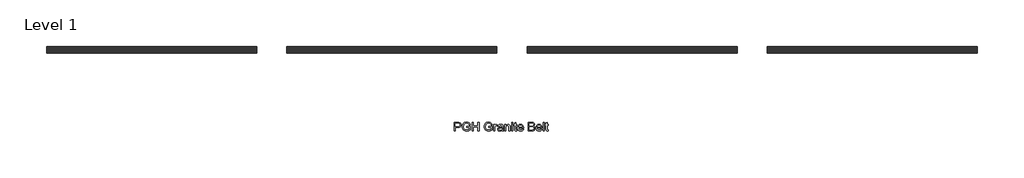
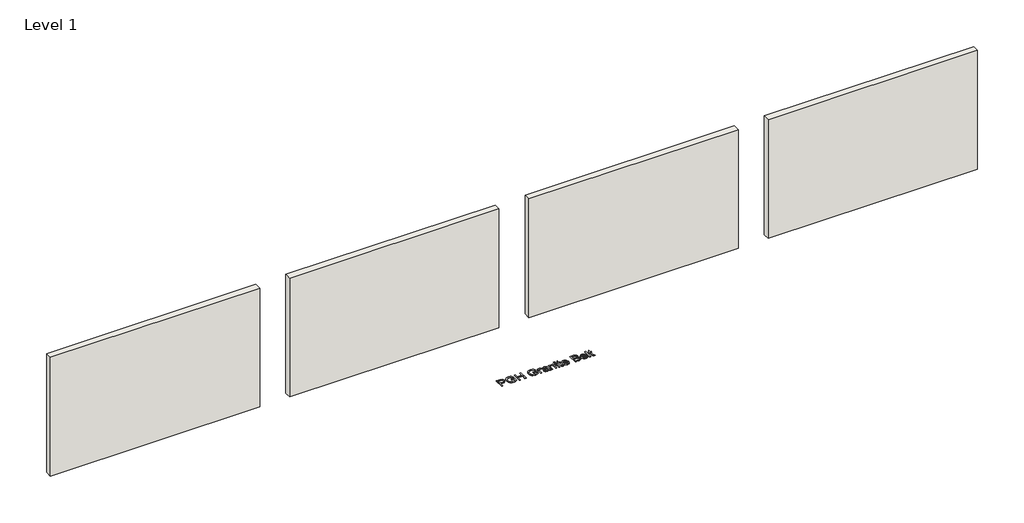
# One storey, incomplete: 4 walls, 1 proxy.
"""IFC4 building model written with IfcOpenShell, lengths in millimetres."""

from ifc_helpers import new_model, si_unit, origin, origin_with_axes, place, context, project, spatial, polyline, outline, extrude, element, save

model = new_model("IFC4")

# Units and contexts
model_context = context("Model", 3, world=origin())
ifc_project = project(units=[si_unit("LENGTHUNIT", "METRE", prefix="MILLI")], contexts=[model_context])

# Site, building, storey
site = spatial("IfcSite", under=ifc_project)
building = spatial("IfcBuilding", under=site)
storey = spatial("IfcBuildingStorey", under=building, Name="Level 1", Elevation=0.0)

# Proxy
placement = place(None, origin())
element("IfcBuildingElementProxy", 1, Name="150mm Arial", ObjectType="150mm Arial", at=placement, inside=storey, context=model_context, shape_type="SweptSolid", body=[
    extrude(outline(polyline([(6790.7206907, -967.0338673), (6790.7206907, -819.3415596), (6845.4562677, -819.3415596), (6867.5235754, -820.7478096), (6885.4622773, -827.6528577), (6897.090883, -841.9317039), (6901.4899215, -862.069925), (6898.5196691, -879.476776), (6889.6089119, -893.9809827), (6872.9457508, -903.7706462), (6846.7182869, -907.0338673), (6809.1822292, -907.0338673), (6809.1822292, -967.0338673), (6790.7206907, -967.0338673)]), holes=[polyline([(6809.1822292, -888.5723289), (6847.8000177, -888.5723289), (6864.17021, -886.8776173), (6874.9875177, -881.7934827), (6881.0181667, -873.6354298), (6883.028383, -862.7189635), (6878.2867965, -847.4305019), (6865.8288638, -839.0651173), (6847.3673254, -837.8030981), (6809.1822292, -837.8030981), (6809.1822292, -888.5723289)])]), origin_with_axes(), (0.0, 0.0, 1.0), 5.0),
    extrude(outline(polyline([(6996.1053061, -909.3415596), (6996.1053061, -890.8800212), (7056.1053061, -890.8800212), (7056.1053061, -946.0843481), (7026.4839119, -963.5002135), (6995.1678061, -969.3415596), (6974.4571691, -967.0203457), (6955.7387196, -960.0567039), (6940.1888398, -948.6940236), (6928.9839119, -933.1756942), (6922.209573, -914.5609106), (6919.95146, -893.9088673), (6922.2005585, -873.1080861), (6928.9478542, -853.7586269), (6939.9138999, -837.5281582), (6954.8192484, -826.0843481), (6972.9742965, -819.2964875), (6993.6894407, -817.0338673), (7022.5716523, -822.2802615), (7034.0875778, -828.5543), (7042.8180465, -836.8836269), (7053.9779023, -861.3127135), (7036.9586715, -866.1083865), (7028.5392004, -849.0350692), (7014.1521811, -839.1913192), (6993.4009792, -835.4954058), (6969.7651619, -839.4797808), (6953.6834311, -849.9365115), (6944.1822292, -864.1612712), (6938.4129984, -893.1516558), (6940.1482749, -910.8064034), (6945.3541042, -925.3331462), (6953.872734, -936.6282183), (6965.5464119, -944.5879539), (6979.2077701, -949.3070043), (6993.6894407, -950.8800212), (7018.9478542, -946.1384346), (7037.6437677, -936.0242519), (7037.6437677, -909.3415596), (6996.1053061, -909.3415596)])), origin_with_axes(), (0.0, 0.0, 1.0), 5.0),
    extrude(outline(polyline([(7086.1053061, -967.0338673), (7086.1053061, -819.3415596), (7104.5668446, -819.3415596), (7104.5668446, -879.3415596), (7183.028383, -879.3415596), (7183.028383, -819.3415596), (7201.4899215, -819.3415596), (7201.4899215, -967.0338673), (7183.028383, -967.0338673), (7183.028383, -897.8030981), (7104.5668446, -897.8030981), (7104.5668446, -967.0338673), (7086.1053061, -967.0338673)])), origin_with_axes(), (0.0, 0.0, 1.0), 5.0),
    extrude(outline(polyline([(7360.7206907, -909.3415596), (7360.7206907, -890.8800212), (7420.7206907, -890.8800212), (7420.7206907, -946.0843481), (7391.0992965, -963.5002135), (7359.7831907, -969.3415596), (7339.0725537, -967.0203457), (7320.3541042, -960.0567039), (7304.8042244, -948.6940236), (7293.5992965, -933.1756942), (7286.8249576, -914.5609106), (7284.5668446, -893.9088673), (7286.8159431, -873.1080861), (7293.5632388, -853.7586269), (7304.5292845, -837.5281582), (7319.434633, -826.0843481), (7337.5896811, -819.2964875), (7358.3048254, -817.0338673), (7387.1870369, -822.2802615), (7398.7029624, -828.5543), (7407.4334311, -836.8836269), (7418.5932869, -861.3127135), (7401.5740561, -866.1083865), (7393.154585, -849.0350692), (7378.7675657, -839.1913192), (7358.0163638, -835.4954058), (7334.3805465, -839.4797808), (7318.2988157, -849.9365115), (7308.7976138, -864.1612712), (7303.028383, -893.1516558), (7304.7636595, -910.8064034), (7309.9694888, -925.3331462), (7318.4881186, -936.6282183), (7330.1617965, -944.5879539), (7343.8231547, -949.3070043), (7358.3048254, -950.8800212), (7383.5632388, -946.1384346), (7402.2591523, -936.0242519), (7402.2591523, -909.3415596), (7360.7206907, -909.3415596)])), origin_with_axes(), (0.0, 0.0, 1.0), 5.0),
    extrude(outline(polyline([(7448.4129984, -967.0338673), (7448.4129984, -858.5723289), (7464.5668446, -858.5723289), (7464.5668446, -874.6180019), (7476.0331907, -859.8343481), (7487.5716523, -856.2646365), (7506.1053061, -861.9617519), (7499.9394407, -878.5122327), (7486.9586715, -874.726175), (7476.5199696, -878.3680019), (7469.8673254, -888.4641558), (7466.8745369, -910.0266558), (7466.8745369, -967.0338673), (7448.4129984, -967.0338673)])), origin_with_axes(), (0.0, 0.0, 1.0), 5.0),
    extrude(outline(polyline([(7586.8745369, -953.1877135), (7568.9718927, -965.6997327), (7549.1942484, -969.3415596), (7533.7660633, -967.1510548), (7522.3853542, -960.5795404), (7515.3676258, -950.600574), (7513.028383, -938.1877135), (7516.5620369, -923.5843481), (7525.8468927, -912.9833865), (7538.7735754, -906.9256942), (7554.747133, -904.1492519), (7586.7663638, -897.8030981), (7586.8745369, -893.6925212), (7585.6035032, -885.4533385), (7581.7904023, -880.0627135), (7573.262758, -876.0603096), (7561.3817484, -874.726175), (7542.7038638, -878.2778577), (7533.7976138, -890.8800212), (7515.3360754, -888.5723289), (7523.3228542, -870.5434827), (7539.404585, -859.9785789), (7563.7615561, -856.2646365), (7586.1353542, -859.5458865), (7598.7735754, -867.7850692), (7604.434633, -880.3151173), (7605.3360754, -896.4689635), (7605.3360754, -919.4377135), (7606.2735754, -951.5110308), (7609.95146, -967.0338673), (7591.4899215, -967.0338673), (7586.8745369, -953.1877135)]), holes=[polyline([(7586.8745369, -916.2646365), (7557.090883, -921.9256942), (7541.2074696, -924.9184827), (7534.01396, -929.7862712), (7531.4899215, -936.8896365), (7536.9887196, -946.8776173), (7553.1245369, -950.8800212), (7571.8024215, -946.4629539), (7583.8456907, -935.7718481), (7586.7663638, -921.4930019), (7586.8745369, -916.2646365)])]), origin_with_axes(), (0.0, 0.0, 1.0), 5.0),
    extrude(outline(polyline([(7630.7206907, -967.0338673), (7630.7206907, -858.5723289), (7649.1822292, -858.5723289), (7649.1822292, -873.7165596), (7663.2988157, -860.6276173), (7682.5716523, -856.2646365), (7700.0055465, -859.7802615), (7711.904585, -869.0110308), (7717.4394407, -882.5867519), (7718.4129984, -900.4353096), (7718.4129984, -967.0338673), (7699.95146, -967.0338673), (7699.95146, -902.9232904), (7697.8240561, -886.5891558), (7690.3060273, -877.9533385), (7677.6317484, -874.726175), (7666.818948, -876.538074), (7657.6017004, -881.9737712), (7651.287097, -892.475574), (7649.1822292, -909.4857904), (7649.1822292, -967.0338673), (7630.7206907, -967.0338673)])), origin_with_axes(), (0.0, 0.0, 1.0), 5.0),
    extrude(outline(polyline([(7743.7976138, -967.0338673), (7743.7976138, -858.5723289), (7762.2591523, -858.5723289), (7762.2591523, -967.0338673), (7743.7976138, -967.0338673)])), origin_with_axes(), (0.0, 0.0, 1.0), 5.0),
    extrude(outline(polyline([(7743.7976138, -837.8030981), (7743.7976138, -819.3415596), (7762.2591523, -819.3415596), (7762.2591523, -837.8030981), (7743.7976138, -837.8030981)])), origin_with_axes(), (0.0, 0.0, 1.0), 5.0),
    extrude(outline(polyline([(7829.1822292, -951.6372327), (7831.4899215, -967.5747327), (7817.6798254, -969.3415596), (7802.2110754, -966.2766558), (7794.4947292, -958.2357904), (7792.2591523, -937.2862712), (7792.2591523, -877.0338673), (7778.4129984, -877.0338673), (7778.4129984, -858.5723289), (7792.2591523, -858.5723289), (7792.2591523, -832.2141558), (7810.7206907, -821.3607904), (7810.7206907, -858.5723289), (7829.1822292, -858.5723289), (7829.1822292, -877.0338673), (7810.7206907, -877.0338673), (7810.7206907, -936.7454058), (7811.6942484, -946.2646365), (7814.8492965, -949.6360308), (7821.1413638, -950.8800212), (7829.1822292, -951.6372327)])), origin_with_axes(), (0.0, 0.0, 1.0), 5.0),
    extrude(outline(polyline([(7923.5812677, -934.726175), (7941.6822292, -937.0338673), (7935.1602941, -950.6726894), (7924.7531427, -960.8680019), (7910.6951499, -967.2231702), (7893.2206907, -969.3415596), (7871.5590321, -965.6862111), (7854.8913638, -954.7201654), (7844.263359, -937.155562), (7840.7206907, -913.7045404), (7844.2994167, -889.4647567), (7855.0355946, -871.3367519), (7871.4779023, -860.0326654), (7892.1750177, -856.2646365), (7912.2276018, -860.023651), (7928.2507388, -871.3006942), (7938.7570489, -889.3926414), (7942.2591523, -913.5963673), (7942.1509792, -918.5723289), (7859.1822292, -918.5723289), (7862.3778422, -932.3914394), (7869.8012196, -942.5506942), (7880.5148614, -948.7976894), (7893.5812677, -950.8800212), (7911.6822292, -947.0218481), (7923.5812677, -934.726175)]), holes=[polyline([(7859.1822292, -900.1107904), (7923.7976138, -900.1107904), (7921.3006186, -890.3571846), (7916.4057869, -883.3800212), (7905.6425657, -876.8896365), (7892.1029023, -874.726175), (7879.6584912, -876.452437), (7869.3685273, -881.6312231), (7862.2155826, -889.703639), (7859.1822292, -900.1107904)])]), origin_with_axes(), (0.0, 0.0, 1.0), 5.0),
    extrude(outline(polyline([(8020.7206907, -967.0338673), (8020.7206907, -819.3415596), (8077.0788638, -819.3415596), (8104.6810273, -823.6865115), (8113.9568686, -829.1988313), (8120.9791042, -837.0458865), (8126.8745369, -855.9401173), (8121.9166042, -873.1937231), (8106.934633, -886.2646365), (8117.395871, -891.7273769), (8125.1257388, -900.038675), (8129.8988758, -910.648651), (8131.4899215, -923.007425), (8127.1449696, -942.8571846), (8116.3817484, -956.9918), (8100.3180465, -964.4918), (8076.6461715, -967.0338673), (8020.7206907, -967.0338673)]), holes=[polyline([(8039.1822292, -879.3415596), (8072.8961715, -879.3415596), (8092.5836715, -877.7550212), (8104.4286234, -870.9220885), (8108.4129984, -858.8968481), (8104.6990561, -846.8535789), (8094.0620369, -839.7321846), (8070.3360754, -837.8030981), (8039.1822292, -837.8030981), (8039.1822292, -879.3415596)]), polyline([(8039.1822292, -948.5723289), (8077.0428061, -948.5723289), (8090.7447292, -947.851175), (8102.3372773, -943.8307423), (8110.0175657, -935.6276173), (8113.028383, -923.1877135), (8109.4947292, -908.8367519), (8098.0464119, -900.27305), (8075.2399215, -897.8030981), (8039.1822292, -897.8030981), (8039.1822292, -948.5723289)])]), origin_with_axes(), (0.0, 0.0, 1.0), 5.0),
    extrude(outline(polyline([(8230.5043446, -934.726175), (8248.6053061, -937.0338673), (8242.083371, -950.6726894), (8231.6762196, -960.8680019), (8217.6182268, -967.2231702), (8200.1437677, -969.3415596), (8178.482109, -965.6862111), (8161.8144407, -954.7201654), (8151.1864359, -937.155562), (8147.6437677, -913.7045404), (8151.2224936, -889.4647567), (8161.9586715, -871.3367519), (8178.4009792, -860.0326654), (8199.0980946, -856.2646365), (8219.1506787, -860.023651), (8235.1738157, -871.3006942), (8245.6801258, -889.3926414), (8249.1822292, -913.5963673), (8249.0740561, -918.5723289), (8166.1053061, -918.5723289), (8169.3009191, -932.3914394), (8176.7242965, -942.5506942), (8187.4379383, -948.7976894), (8200.5043446, -950.8800212), (8218.6053061, -947.0218481), (8230.5043446, -934.726175)]), holes=[polyline([(8166.1053061, -900.1107904), (8230.7206907, -900.1107904), (8228.2236955, -890.3571846), (8223.3288638, -883.3800212), (8212.5656427, -876.8896365), (8199.0259792, -874.726175), (8186.5815681, -876.452437), (8176.2916042, -881.6312231), (8169.1386595, -889.703639), (8166.1053061, -900.1107904)])]), origin_with_axes(), (0.0, 0.0, 1.0), 5.0),
    extrude(outline(polyline([(8267.6437677, -967.0338673), (8267.6437677, -819.3415596), (8286.1053061, -819.3415596), (8286.1053061, -967.0338673), (8267.6437677, -967.0338673)])), origin_with_axes(), (0.0, 0.0, 1.0), 5.0),
    extrude(outline(polyline([(8353.028383, -951.6372327), (8355.3360754, -967.5747327), (8341.5259792, -969.3415596), (8326.0572292, -966.2766558), (8318.340883, -958.2357904), (8316.1053061, -937.2862712), (8316.1053061, -877.0338673), (8302.2591523, -877.0338673), (8302.2591523, -858.5723289), (8316.1053061, -858.5723289), (8316.1053061, -832.2141558), (8334.5668446, -821.3607904), (8334.5668446, -858.5723289), (8353.028383, -858.5723289), (8353.028383, -877.0338673), (8334.5668446, -877.0338673), (8334.5668446, -936.7454058), (8335.5404023, -946.2646365), (8338.6954504, -949.6360308), (8344.9875177, -950.8800212), (8353.028383, -951.6372327)])), origin_with_axes(), (0.0, 0.0, 1.0), 5.0),
])

# Walls
element("IfcWall", 2, ObjectType="Masonry_PGH_Granite Belt_Ballandean_230w x 119h x 110d", at=placement, inside=storey, context=model_context, shape_type="SweptSolid", body=[
    extrude(outline(polyline([(3500.0, 335.5), (0.0, 335.5), (0.0, 445.5), (3500.0, 445.5), (3500.0, 335.5)])), origin_with_axes(), (0.0, 0.0, 1.0), 2100.0),
])
element("IfcWall", 3, ObjectType="Masonry_PGH_Granite Belt_Hampton_230w x 119h x 110d", at=placement, inside=storey, context=model_context, shape_type="SweptSolid", body=[
    extrude(outline(polyline([(7500.0, 335.5), (4000.0, 335.5), (4000.0, 445.5), (7500.0, 445.5), (7500.0, 335.5)])), origin_with_axes(), (0.0, 0.0, 1.0), 2100.0),
])
element("IfcWall", 4, ObjectType="Masonry_PGH_Granite Belt_Inglewood_230w x 119h x 110d", at=placement, inside=storey, context=model_context, shape_type="SweptSolid", body=[
    extrude(outline(polyline([(11500.0, 335.5), (8000.0, 335.5), (8000.0, 445.5), (11500.0, 445.5), (11500.0, 335.5)])), origin_with_axes(), (0.0, 0.0, 1.0), 2100.0),
])
element("IfcWall", 5, ObjectType="Masonry_PGH_Granite Belt_Leyburn_230w x 119h x 110d", at=placement, inside=storey, context=model_context, shape_type="SweptSolid", body=[
    extrude(outline(polyline([(15500.0, 335.5), (12000.0, 335.5), (12000.0, 445.5), (15500.0, 445.5), (15500.0, 335.5)])), origin_with_axes(), (0.0, 0.0, 1.0), 2100.0),
])

save(model, "model.ifc")
